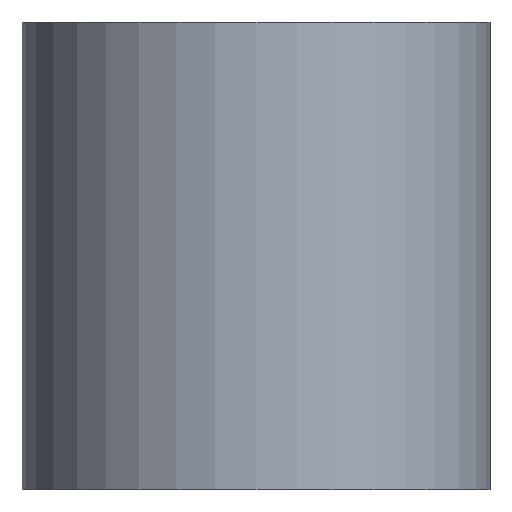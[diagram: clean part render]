
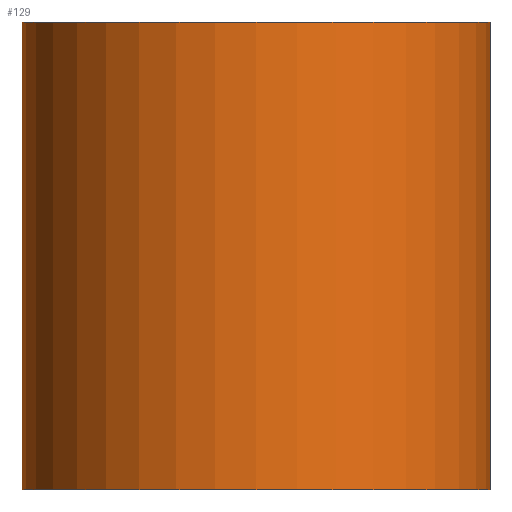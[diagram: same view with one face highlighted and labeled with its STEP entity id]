
A CAD part, front view. The second image highlights one B-rep face of the part: STEP entity #129.
In plain terms, the highlighted cylindrical face has radius 12.5 mm (diameter 25 mm), a partial arc.
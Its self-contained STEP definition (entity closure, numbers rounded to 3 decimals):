
#102=CYLINDRICAL_SURFACE('',#250,12.5);
#108=FACE_OUTER_BOUND('',#150,.T.);
#113=LINE('',#337,#119);
#114=LINE('',#338,#120);
#119=VECTOR('',#295,1.);
#120=VECTOR('',#296,1.);
#129=ADVANCED_FACE('',(#108),#102,.T.);
#150=EDGE_LOOP('',(#183,#184,#185,#186));
#183=ORIENTED_EDGE('',*,*,#215,.F.);
#184=ORIENTED_EDGE('',*,*,#214,.T.);
#185=ORIENTED_EDGE('',*,*,#216,.T.);
#186=ORIENTED_EDGE('',*,*,#199,.F.);
#187=VERTEX_POINT('',#303);
#188=VERTEX_POINT('',#304);
#197=VERTEX_POINT('',#333);
#198=VERTEX_POINT('',#334);
#199=EDGE_CURVE('',#187,#188,#217,.T.);
#214=EDGE_CURVE('',#198,#197,#228,.T.);
#215=EDGE_CURVE('',#198,#187,#113,.T.);
#216=EDGE_CURVE('',#197,#188,#114,.T.);
#217=CIRCLE('',#230,12.5);
#228=CIRCLE('',#247,12.5);
#230=AXIS2_PLACEMENT_3D('',#302,#253,#254);
#247=AXIS2_PLACEMENT_3D('',#335,#291,#292);
#250=AXIS2_PLACEMENT_3D('',#340,#299,#300);
#253=DIRECTION('',(0.,0.,1.));
#254=DIRECTION('',(0.,1.,0.));
#291=DIRECTION('',(0.,0.,1.));
#292=DIRECTION('',(0.,1.,0.));
#295=DIRECTION('',(0.,0.,1.));
#296=DIRECTION('',(0.,0.,1.));
#299=DIRECTION('',(0.,0.,1.));
#300=DIRECTION('',(0.,-1.,0.));
#302=CARTESIAN_POINT('',(0.,0.,25.));
#303=CARTESIAN_POINT('',(-12.5,0.,25.));
#304=CARTESIAN_POINT('',(12.5,0.,25.));
#333=CARTESIAN_POINT('',(12.5,0.,0.));
#334=CARTESIAN_POINT('',(-12.5,0.,0.));
#335=CARTESIAN_POINT('',(0.,0.,0.));
#337=CARTESIAN_POINT('',(-12.5,0.,0.));
#338=CARTESIAN_POINT('',(12.5,0.,0.));
#340=CARTESIAN_POINT('',(0.,0.,0.));
